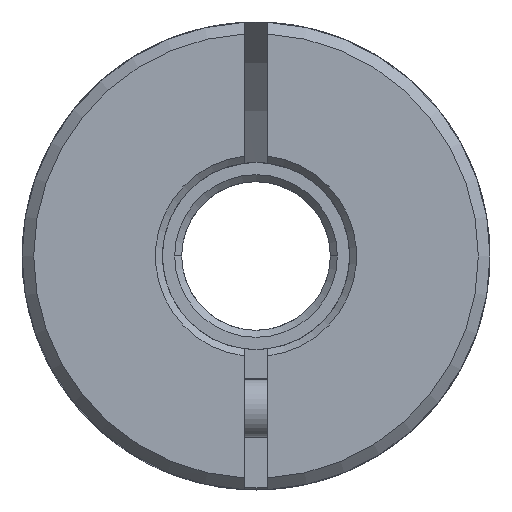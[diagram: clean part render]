
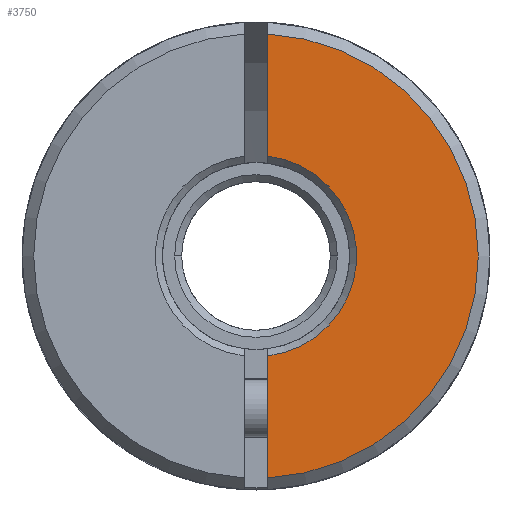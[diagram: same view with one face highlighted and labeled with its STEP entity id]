
A CAD part, front view. The second image highlights one B-rep face of the part: STEP entity #3750.
In plain terms, the highlighted planar face has unit normal (0, -1, 0).
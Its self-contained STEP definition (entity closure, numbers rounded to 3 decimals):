
#33 = ORIENTED_EDGE ( 'NONE', *, *, #1832, .F. ) ;
#390 = CARTESIAN_POINT ( 'NONE',  ( 0.5, -33., -12.292 ) ) ;
#528 = CARTESIAN_POINT ( 'NONE',  ( 50., -33., -12.292 ) ) ;
#647 = AXIS2_PLACEMENT_3D ( 'NONE', #4532, #9402, #4628 ) ;
#1104 = FACE_OUTER_BOUND ( 'NONE', #7784, .T. ) ;
#1526 = VECTOR ( 'NONE', #5963, 1000. ) ;
#1609 = CARTESIAN_POINT ( 'NONE',  ( 0.5, -33., 4.271 ) ) ;
#1665 = DIRECTION ( 'NONE',  ( 0., 0., -1. ) ) ;
#1832 = EDGE_CURVE ( 'NONE', #2900, #6004, #6355, .T. ) ;
#2394 = VERTEX_POINT ( 'NONE', #9342 ) ;
#2779 = CARTESIAN_POINT ( 'NONE',  ( 0.5, -33., 9.487 ) ) ;
#2900 = VERTEX_POINT ( 'NONE', #1609 ) ;
#3222 = ORIENTED_EDGE ( 'NONE', *, *, #8438, .F. ) ;
#3307 = CARTESIAN_POINT ( 'NONE',  ( 0.5, -33., -12.292 ) ) ;
#3750 = ADVANCED_FACE ( 'NONE', ( #1104 ), #10087, .F. ) ;
#4169 = ORIENTED_EDGE ( 'NONE', *, *, #7777, .T. ) ;
#4193 = DIRECTION ( 'NONE',  ( 0., 1., 0. ) ) ;
#4532 = CARTESIAN_POINT ( 'NONE',  ( 0., -33., 0. ) ) ;
#4628 = DIRECTION ( 'NONE',  ( 0., 0., -1. ) ) ;
#5113 = EDGE_CURVE ( 'NONE', #2900, #8779, #9961, .T. ) ;
#5351 = VECTOR ( 'NONE', #8992, 1000. ) ;
#5708 = CARTESIAN_POINT ( 'NONE',  ( 0., -33., 0. ) ) ;
#5963 = DIRECTION ( 'NONE',  ( 0., 0., 1. ) ) ;
#6004 = VERTEX_POINT ( 'NONE', #2779 ) ;
#6103 = DIRECTION ( 'NONE',  ( 0., 1., 0. ) ) ;
#6171 = ORIENTED_EDGE ( 'NONE', *, *, #5113, .T. ) ;
#6355 = LINE ( 'NONE', #3307, #5351 ) ;
#6396 = LINE ( 'NONE', #390, #1526 ) ;
#7511 = CARTESIAN_POINT ( 'NONE',  ( 0.5, -33., -4.271 ) ) ;
#7645 = DIRECTION ( 'NONE',  ( 0., 0., -1. ) ) ;
#7721 = AXIS2_PLACEMENT_3D ( 'NONE', #528, #6103, #7645 ) ;
#7777 = EDGE_CURVE ( 'NONE', #2394, #6004, #9663, .T. ) ;
#7784 = EDGE_LOOP ( 'NONE', ( #3222, #4169, #33, #6171 ) ) ;
#8438 = EDGE_CURVE ( 'NONE', #2394, #8779, #6396, .T. ) ;
#8779 = VERTEX_POINT ( 'NONE', #7511 ) ;
#8992 = DIRECTION ( 'NONE',  ( 0., 0., 1. ) ) ;
#9342 = CARTESIAN_POINT ( 'NONE',  ( 0.5, -33., -9.487 ) ) ;
#9402 = DIRECTION ( 'NONE',  ( 0., -1., 0. ) ) ;
#9663 = CIRCLE ( 'NONE', #647, 9.5 ) ;
#9961 = CIRCLE ( 'NONE', #10034, 4.3 ) ;
#10034 = AXIS2_PLACEMENT_3D ( 'NONE', #5708, #4193, #1665 ) ;
#10087 = PLANE ( 'NONE',  #7721 ) ;
